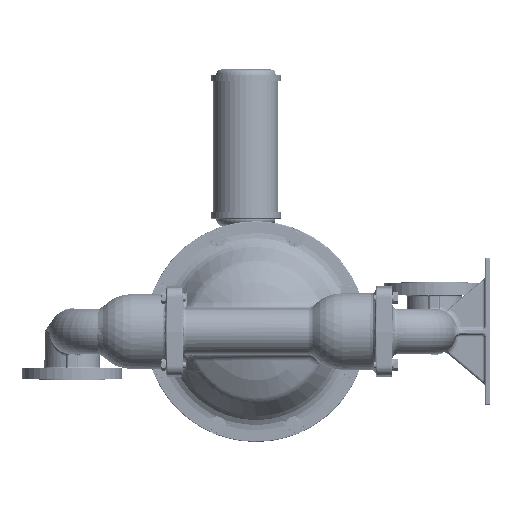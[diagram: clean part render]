
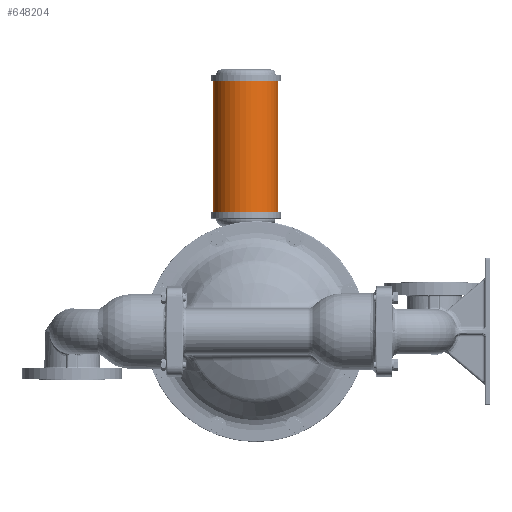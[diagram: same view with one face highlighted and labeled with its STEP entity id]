
A CAD part, left-side view. The second image highlights one B-rep face of the part: STEP entity #648204.
In plain terms, the highlighted cylindrical face has radius 61.722 mm (diameter 123.444 mm), a partial arc.
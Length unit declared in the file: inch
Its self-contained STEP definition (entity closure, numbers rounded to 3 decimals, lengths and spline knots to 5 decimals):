
#157965=DIRECTION('',(0.,0.,1.));
#157966=VECTOR('',#157965,9.78);
#157967=CARTESIAN_POINT('',(0.,3.18,8.965));
#157968=LINE('',#157967,#157966);
#157969=DIRECTION('',(0.,0.,1.));
#157970=VECTOR('',#157969,9.78);
#157971=CARTESIAN_POINT('',(0.,-1.68,8.965));
#157972=LINE('',#157971,#157970);
#157973=CARTESIAN_POINT('',(0.,0.75,8.965));
#157974=DIRECTION('',(0.,0.,1.));
#157975=DIRECTION('',(0.,1.,0.));
#157976=AXIS2_PLACEMENT_3D('',#157973,#157974,#157975);
#157998=CARTESIAN_POINT('',(0.,0.75,18.745));
#157999=DIRECTION('',(0.,0.,1.));
#158000=DIRECTION('',(0.,1.,0.));
#158001=AXIS2_PLACEMENT_3D('',#157998,#157999,#158000);
#521348=CARTESIAN_POINT('',(0.,3.18,8.965));
#521349=CARTESIAN_POINT('',(0.,3.18,18.745));
#521350=VERTEX_POINT('',#521348);
#521351=VERTEX_POINT('',#521349);
#521352=CARTESIAN_POINT('',(0.,-1.68,8.965));
#521353=CARTESIAN_POINT('',(0.,-1.68,18.745));
#521354=VERTEX_POINT('',#521352);
#521355=VERTEX_POINT('',#521353);
#648190=CARTESIAN_POINT('',(0.,0.75,20.2325));
#648191=DIRECTION('',(0.,0.,-1.));
#648192=DIRECTION('',(0.,-1.,0.));
#648193=AXIS2_PLACEMENT_3D('',#648190,#648191,#648192);
#648194=CYLINDRICAL_SURFACE('',#648193,2.43);
#648196=ORIENTED_EDGE('',*,*,#648195,.T.);
#648198=ORIENTED_EDGE('',*,*,#648197,.T.);
#648200=ORIENTED_EDGE('',*,*,#648199,.F.);
#648201=ORIENTED_EDGE('',*,*,#648171,.F.);
#648202=EDGE_LOOP('',(#648196,#648198,#648200,#648201));
#648203=FACE_OUTER_BOUND('',#648202,.F.);
#157977=CIRCLE('',#157976,2.43);
#158002=CIRCLE('',#158001,2.43);
#648171=EDGE_CURVE('',#521350,#521354,#157977,.T.);
#648195=EDGE_CURVE('',#521350,#521351,#157968,.T.);
#648197=EDGE_CURVE('',#521351,#521355,#158002,.T.);
#648199=EDGE_CURVE('',#521354,#521355,#157972,.T.);
#648204=ADVANCED_FACE('',(#648203),#648194,.T.);
